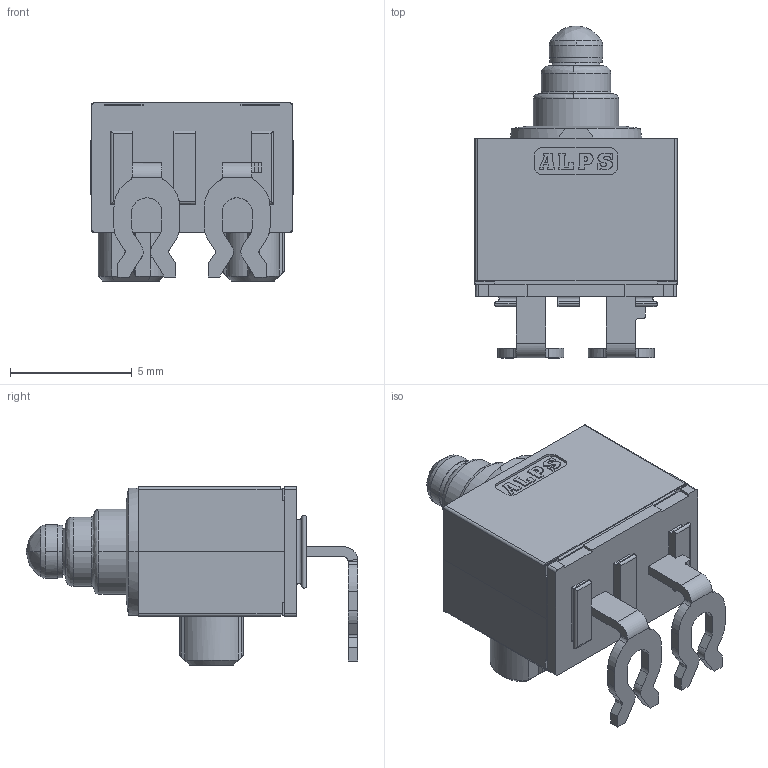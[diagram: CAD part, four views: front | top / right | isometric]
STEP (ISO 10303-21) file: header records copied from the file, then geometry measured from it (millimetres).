
FILE_DESCRIPTION (( 'STEP AP214' ), '1' );
FILE_NAME ('SPVQ821006.STEP', '2018-06-20T06:34:56', ( 'user' ), ( '' ), 'SwSTEP 2.0', 'SolidWorks 2017', '' );
FILE_SCHEMA (( 'AUTOMOTIVE_DESIGN' ));
Length unit declared in the file: millimetre
Products named in the file (1): SPVQ821006
Bounding box: 8.3 x 13.61 x 7.3 mm (x, y, z)
Volume: 341.6 mm3; surface area: 424.8 mm2
Topology: 1 solids, 2 shells, 361 faces, 986 edges, 650 vertices
Faces by surface type: plane 201, cylinder 106, bspline 37, cone 17
Entity records: 14424 total; most frequent: CARTESIAN_POINT 4594, ORIENTED_EDGE 1972, DIRECTION 1462, EDGE_CURVE 986, VERTEX_POINT 650, LINE 626, VECTOR 626, AXIS2_PLACEMENT_3D 418
